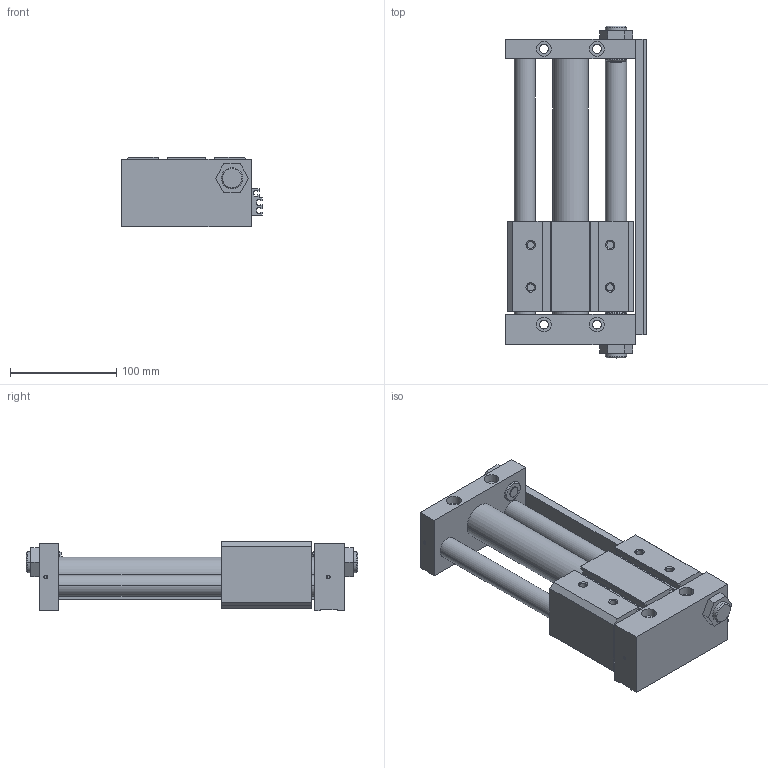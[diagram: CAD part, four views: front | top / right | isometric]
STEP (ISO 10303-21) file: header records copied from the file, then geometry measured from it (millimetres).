
FILE_DESCRIPTION((''),'2;1');
FILE_NAME('C:\Documents and Settings\Administrator\桌面\GYS\GYS32\GYSR32X150.stp','2012-03-06T20:18:58',('Administrator'),(''),'Autodesk Inventor 8','Autodesk Inventor 8','');
FILE_SCHEMA(('AUTOMOTIVE_DESIGN { 1 0 10303 214 1 1 1 1 }'));
Length unit declared in the file: millimetre
Products named in the file (3): GYSR32X150; GYS32X150; GYS32160X150
Assembly tree (2 placements, depth 2):
  GYSR32X150
    GYS32X150
    GYS32160X150
Bounding box: 132.5 x 313 x 66 mm (x, y, z)
Volume: 1234735.3 mm3; surface area: 173058.1 mm2
Topology: 2 solids, 2 shells, 291 faces, 770 edges, 504 vertices
Faces by surface type: plane 161, cylinder 96, cone 28, bspline 6
Entity records: 9200 total; most frequent: CARTESIAN_POINT 1644, DIRECTION 1598, ORIENTED_EDGE 1540, EDGE_CURVE 770, AXIS2_PLACEMENT_3D 538, VECTOR 522, LINE 522, VERTEX_POINT 504
